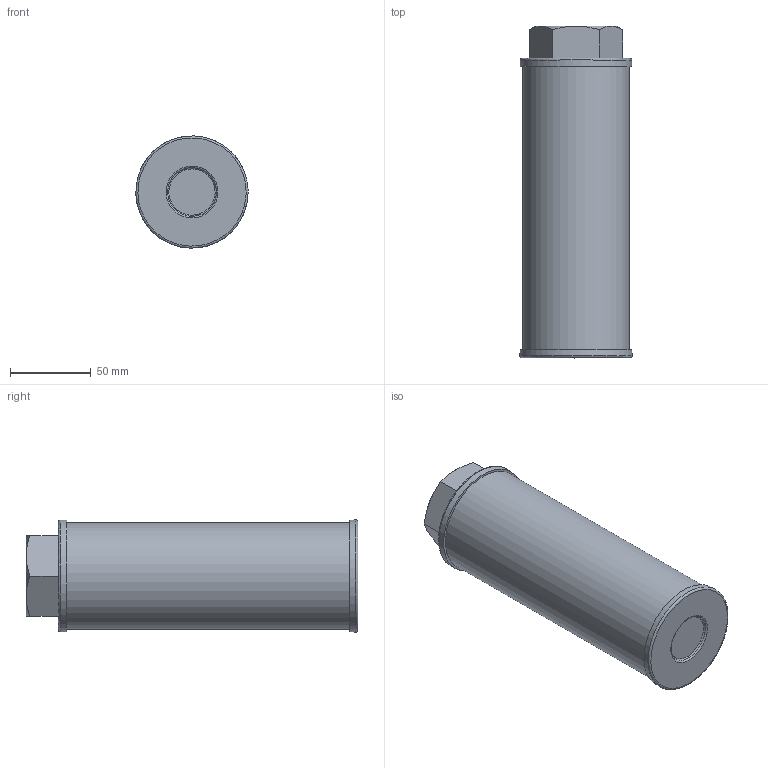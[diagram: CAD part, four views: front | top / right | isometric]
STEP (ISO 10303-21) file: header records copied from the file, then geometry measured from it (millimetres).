
FILE_DESCRIPTION((''),'2;1');
FILE_NAME('U:\Users\t.schleuter\Saugfilter14532500(261236).stp', '2013-04-15T10:10:38',('User'),('SDRC'),'I-DEAS Master Series 9','UNIX', 'Yes');
FILE_SCHEMA(('AUTOMOTIVE_DESIGN { 1 0 10303 214 1 1 1 1 }'));
Length unit declared in the file: millimetre
Products named in the file (1): 14532500(261236)
Bounding box: 69.35 x 205 x 69.29 mm (x, y, z)
Volume: 663195.8 mm3; surface area: 51969.8 mm2
Topology: 1 solids, 1 shells, 24 faces, 46 edges, 29 vertices
Faces by surface type: bspline 24
Entity records: 783 total; most frequent: CARTESIAN_POINT 446, ORIENTED_EDGE 90, EDGE_CURVE 45, EDGE_LOOP 29, VERTEX_POINT 28, FACE_OUTER_BOUND 24, ADVANCED_FACE 24, B_SPLINE_CURVE_WITH_KNOTS 13
